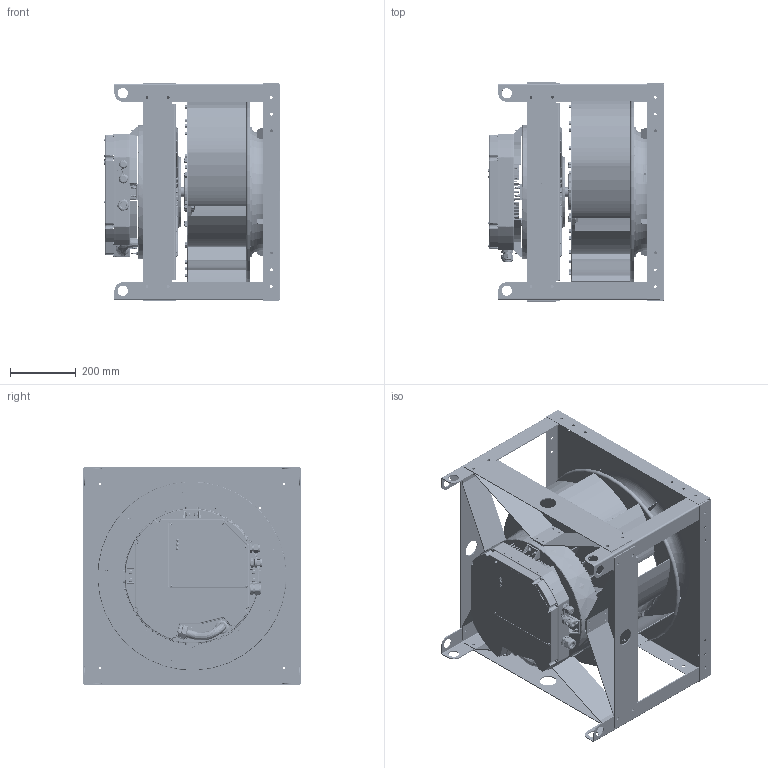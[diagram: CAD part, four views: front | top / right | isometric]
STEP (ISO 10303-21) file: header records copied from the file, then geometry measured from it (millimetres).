
FILE_DESCRIPTION (( 'STEP AP214' ), '1' );
FILE_NAME ('655792.STEP', '2026-06-11T14:38:59', ( '' ), ( '' ), 'SwSTEP 2.0', 'SolidWorks 2023', '' );
FILE_SCHEMA (( 'AUTOMOTIVE_DESIGN' ));
Length unit declared in the file: inch
Products named in the file (19): 941770_BUSHING  TB2012 X 1.125; SXP22 BAFFLE_651419; SXP22 WHEEL ASSY_655589; 941768_941768; SXP22 INLET_651414; 941044_941044; 925517_925517; SXP22 FP_651389; 651593_651593; 655792; SXP22 WHEEL WELDMENT_655574; SXPI STRAP_651579; 651587_651587; SXP22 BLADE_651387; 941156_941156; 651613_651613; SXP22 BP_651390; 941153_941153; SXP22 INLET ASSY_655579
Assembly tree (83 placements, depth 4):
  655792
    651587_651587
    SXP22 INLET ASSY_655579
      SXP22 INLET_651414
      SXP22 BAFFLE_651419  x4
    SXP22 WHEEL ASSY_655589
      SXP22 WHEEL WELDMENT_655574
        SXP22 FP_651389
        SXP22 BLADE_651387  x9
        SXP22 BP_651390
        941044_941044  x36
      941153_941153  x6
      941156_941156  x6
      941768_941768
    925517_925517
    651613_651613  x4
    941770_BUSHING  TB2012 X 1.125
    651593_651593  x4
    SXPI STRAP_651579  x4
Bounding box: 535.23 x 663.7 x 663.7 mm (x, y, z)
Volume: 6889069.8 mm3; surface area: 5918952 mm2
Topology: 79 solids, 301 shells, 7534 faces, 22499 edges, 15128 vertices
Faces by surface type: plane 2820, cylinder 1915, bspline 1552, cone 848, torus 394, sphere 5
Full cylindrical faces by diameter (mm): 2.9 x2, 3.962 x10, 4.762 x3, 4.763 x15, 5.105 x16, 6 x144, 6.35 x36, 7 x5, 7.137 x16, 7.544 x2, 7.937 x3, 7.938 x1, 8.5 x1, 8.738 x87, 9 x5, 9.525 x12, 9.73 x8, 10.1 x1, 10.2 x1, 11.8 x7, 12.5 x1, 12.6 x1, 13 x7, 13.208 x36, 14 x1, 14.097 x6, 17.462 x4, 19.05 x6, 20.32 x10, 20.637 x6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
Entity records: 317241 total; most frequent: CARTESIAN_POINT 213699, ORIENTED_EDGE 21037, DIRECTION 18499, EDGE_CURVE 12932, VERTEX_POINT 9126, AXIS2_PLACEMENT_3D 7317, EDGE_LOOP 5145, FACE_OUTER_BOUND 4440
